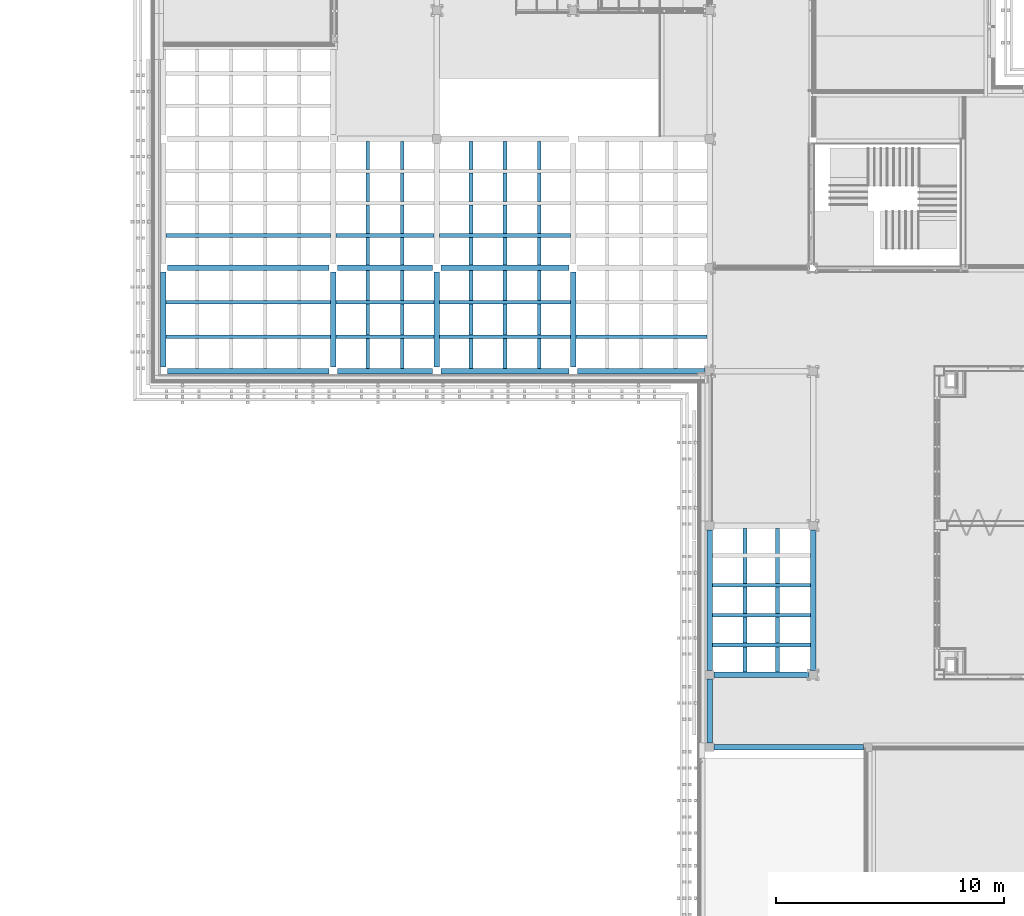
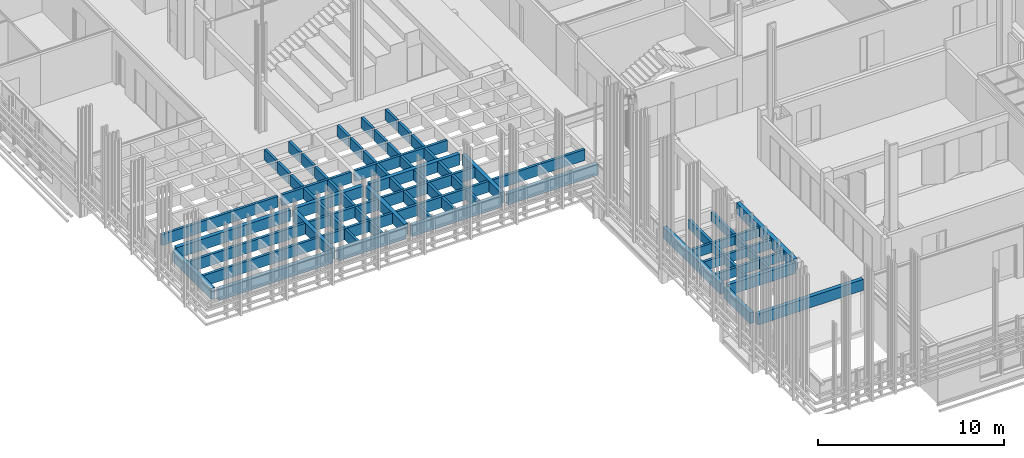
# One storey, part 34 of 139: 36 beams.
"""IFC2X3 building model written with IfcOpenShell, lengths in millimetres."""

from ifc_helpers import new_model, entity, si_unit, converted_unit, derived_unit, money_unit, direction, frame, origin_with_axes, place, context, subcontext, project, spatial, faceted_brep, material, type_object, element, save


model = new_model("IFC2X3")

# Units and contexts
model_context = context("Model", 3, precision=0.01, world=origin_with_axes(), true_north=direction((0.0, 1.0)))
body_context = subcontext(model_context, "Body", "Model", "MODEL_VIEW")
ifc_project = project(units=[si_unit("LENGTHUNIT", "METRE", prefix="MILLI"), si_unit("AREAUNIT", "SQUARE_METRE"), si_unit("VOLUMEUNIT", "CUBIC_METRE"), converted_unit("PLANEANGLEUNIT", "DEGREE", entity("IfcPlaneAngleMeasure", 0.0174532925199), si_unit("PLANEANGLEUNIT", "RADIAN"), dimensions=[0, 0, 0, 0, 0, 0, 0]), money_unit("EUR"), converted_unit("TIMEUNIT", "Year", entity("IfcTimeMeasure", 31556926.0), si_unit("TIMEUNIT", "SECOND"), dimensions=[0, 0, 1, 0, 0, 0, 0]), si_unit("MASSUNIT", "GRAM", prefix="KILO"), si_unit("THERMODYNAMICTEMPERATUREUNIT", "DEGREE_CELSIUS"), si_unit("LUMINOUSINTENSITYUNIT", "LUMEN"), si_unit("ENERGYUNIT", "JOULE", prefix="MEGA"), derived_unit("THERMALCONDUCTANCEUNIT", [(si_unit("POWERUNIT", "WATT"), 1), (si_unit("LENGTHUNIT", "METRE"), -1), (si_unit("THERMODYNAMICTEMPERATUREUNIT", "KELVIN"), -1)]), derived_unit("SPECIFICHEATCAPACITYUNIT", [(si_unit("ENERGYUNIT", "JOULE"), 1), (si_unit("MASSUNIT", "GRAM", prefix="KILO"), -1), (si_unit("THERMODYNAMICTEMPERATUREUNIT", "KELVIN"), -1)]), derived_unit("MASSDENSITYUNIT", [(si_unit("MASSUNIT", "GRAM", prefix="KILO"), 1), (si_unit("VOLUMEUNIT", "CUBIC_METRE"), -1)])], contexts=[model_context])

# Site, building, storey
site_placement = place(None, origin_with_axes())
site = spatial("IfcSite", under=ifc_project, at=site_placement, Name="Kolde pst 67a", CompositionType="ELEMENT")
building_placement = place(site_placement, origin_with_axes())
building = spatial("IfcBuilding", under=site, at=building_placement, Name="Riigigümnaasium", CompositionType="ELEMENT")
storey_placement = place(building_placement, frame((0.0, 0.0, 4600.0), z_axis=(0.0, 0.0, 1.0), x_axis=(1.0, 0.0, 0.0)))
storey = spatial("IfcBuildingStorey", under=building, at=storey_placement, Name="2. korrus", CompositionType="ELEMENT", Elevation=4600.0)

# Beams
ifc_material = material(Name="_KANDETARIND - liimpuit vastavalt EK osale")
beam_type_1 = type_object("IfcBeamType", Name="_KANDETARIND - liimpuit vastavalt EK osale 240 x 720", PredefinedType="BEAM")
beam_1_placement = place(storey_placement, frame((31890.0027795, 28779.9996997, 2959.99999374), z_axis=(0.0, 0.0, 1.0), x_axis=(0.0, -1.0, 0.0)))
element("IfcBeam", 1, at=beam_1_placement, inside=storey, type_object=beam_type_1, material=ifc_material, Name="Tala", ObjectType="BEAM", context=body_context, shape_type="Brep", body=[
    faceted_brep([(120.0, 0.0, 360.0), (120.0, 4169.99645053, 360.0), (-120.0, 4169.99645053, 360.0), (-120.0, 0.0, 360.0), (120.0, 0.0, -360.0), (120.0, 4169.99645053, -360.0), (-120.0, 4169.99645053, -360.0), (-120.0, 0.0, -360.0)], [[[0, 1, 2, 3]], [[4, 5, 1, 0]], [[2, 1, 5, 6]], [[3, 2, 6, 7]], [[4, 0, 3, 7]], [[7, 6, 5, 4]]]),
])
beam_2_placement = place(storey_placement, frame((24230.0027342, 28589.9996998, 2959.99999374), z_axis=(0.0, 0.0, 1.0), x_axis=(-1.0, 0.0, 0.0)))
element("IfcBeam", 2, at=beam_2_placement, inside=storey, type_object=beam_type_1, material=ifc_material, Name="Tala", ObjectType="BEAM", context=body_context, shape_type="Brep", body=[
    faceted_brep([(120.0, 0.0, 360.0), (120.0, 4169.72930563, 360.0), (-120.0, 4169.72930563, 360.0), (-120.0, 0.0, 360.0), (120.0, 0.0, -360.0), (120.0, 4169.72930563, -360.0), (-120.0, 4169.72930563, -360.0), (-120.0, 0.0, -360.0)], [[[0, 1, 2, 3]], [[4, 5, 1, 0]], [[2, 1, 5, 6]], [[3, 2, 6, 7]], [[4, 0, 3, 7]], [[7, 6, 5, 4]]]),
])
for number, where, z_axis, x_axis in (
    (3, (24420.0027342, 24230.2703941, 2959.99999374), (0.0, 0.0, 1.0), (2.13276065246e-10, -1.0, 0.0)),
    (4, (31510.0027795, 28779.9996997, 2960.0), (0.0, 0.0, 1.0), (0.0, 1.0, 0.0)),
):
    element("IfcBeam", number, at=place(storey_placement, frame(where, z_axis=z_axis, x_axis=x_axis)), inside=storey, type_object=beam_type_1, material=ifc_material, Name="Tala", ObjectType="BEAM", context=body_context, shape_type="Brep", body=[
        faceted_brep([(120.0, 0.0, 360.0), (120.0, 7090.00004529, 360.0), (-120.0, 7090.00004529, 360.0), (-120.0, 0.0, 360.0), (120.0, 0.0, -360.0), (120.0, 7090.00004529, -360.0), (-120.0, 7090.00004529, -360.0), (-120.0, 0.0, -360.0)], [[[0, 1, 2, 3]], [[4, 5, 1, 0]], [[2, 1, 5, 6]], [[3, 2, 6, 7]], [[4, 0, 3, 7]], [[7, 6, 5, 4]]]),
    ])
for number, where, z_axis, x_axis in (
    (5, (36248.9770325, 28589.9996998, 2960.0), (0.0, 0.0, 1.0), (-1.0, 0.0, 0.0)),
    (6, (42239.99923, 28589.9996998, 2960.0), (0.0, 0.0, 1.0), (-1.0, 0.0, 0.0)),
):
    element("IfcBeam", number, at=place(storey_placement, frame(where, z_axis=z_axis, x_axis=x_axis)), inside=storey, type_object=beam_type_1, material=ifc_material, Name="Tala", ObjectType="BEAM", context=body_context, shape_type="Brep", body=[
        faceted_brep([(120.0, 0.0, 360.0), (120.0, 4169.72930411, 360.0), (-120.0, 4169.72930411, 360.0), (-120.0, 0.0, 360.0), (120.0, 0.0, -360.0), (120.0, 4169.72930411, -360.0), (-120.0, 4169.72930411, -360.0), (-120.0, 0.0, -360.0)], [[[0, 1, 2, 3]], [[4, 5, 1, 0]], [[2, 1, 5, 6]], [[3, 2, 6, 7]], [[4, 0, 3, 7]], [[7, 6, 5, 4]]]),
    ])
beam_3_placement = place(storey_placement, frame((31700.0027795, 28589.9996997, 2960.0), z_axis=(0.0, 0.0, 1.0), x_axis=(-1.0, 0.0, 0.0)))
element("IfcBeam", 7, at=beam_3_placement, inside=storey, type_object=beam_type_1, material=ifc_material, Name="Tala", ObjectType="BEAM", context=body_context, shape_type="Brep", body=[
    faceted_brep([(120.0, 0.0, 360.0), (120.0, 4169.7293041, 360.0), (-120.0, 4169.7293041, 360.0), (-120.0, 0.0, 360.0), (120.0, 0.0, -360.0), (120.0, 4169.7293041, -360.0), (-120.0, 4169.7293041, -360.0), (-120.0, 0.0, -360.0)], [[[0, 1, 2, 3]], [[4, 5, 1, 0]], [[2, 1, 5, 6]], [[3, 2, 6, 7]], [[4, 0, 3, 7]], [[7, 6, 5, 4]]]),
])
beam_4_placement = place(storey_placement, frame((31890.0027795, 24230.2703956, 2960.0), z_axis=(0.0, 0.0, 1.0), x_axis=(0.0, -1.0, 0.0)))
element("IfcBeam", 8, at=beam_4_placement, inside=storey, type_object=beam_type_1, material=ifc_material, Name="Tala", ObjectType="BEAM", context=body_context, shape_type="Brep", body=[
    faceted_brep([(120.0, 0.0, 360.0), (120.0, 4168.974253, 360.0), (-120.0, 4168.974253, 360.0), (-120.0, 0.0, 360.0), (120.0, 0.0, -360.0), (120.0, 4168.974253, -360.0), (-120.0, 4168.974253, -360.0), (-120.0, 0.0, -360.0)], [[[0, 1, 2, 3]], [[4, 5, 1, 0]], [[2, 1, 5, 6]], [[3, 2, 6, 7]], [[4, 0, 3, 7]], [[7, 6, 5, 4]]]),
])
beam_5_placement = place(storey_placement, frame((36438.9770325, 24230.2703956, 2960.0), z_axis=(0.0, 0.0, 1.0), x_axis=(0.0, -1.0, 0.0)))
element("IfcBeam", 9, at=beam_5_placement, inside=storey, type_object=beam_type_1, material=ifc_material, Name="Tala", ObjectType="BEAM", context=body_context, shape_type="Brep", body=[
    faceted_brep([(120.0, 0.0, 360.0), (120.0, 5611.02219754, 360.0), (-120.0, 5611.02219754, 360.0), (-120.0, 0.0, 360.0), (120.0, 0.0, -360.0), (120.0, 5611.02219754, -360.0), (-120.0, 5611.02219754, -360.0), (-120.0, 0.0, -360.0)], [[[0, 1, 2, 3]], [[4, 5, 1, 0]], [[2, 1, 5, 6]], [[3, 2, 6, 7]], [[4, 0, 3, 7]], [[7, 6, 5, 4]]]),
])
beam_6_placement = place(storey_placement, frame((42429.99923, 24230.2703949, 2960.0), z_axis=(0.0, 0.0, 1.0), x_axis=(-4.88166761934e-05, -0.999999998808, 0.0)))
element("IfcBeam", 10, at=beam_6_placement, inside=storey, type_object=beam_type_1, material=ifc_material, Name="Tala", ObjectType="BEAM", context=body_context, shape_type="Brep", body=[
    faceted_brep([(120.0, 0.0, 360.0), (120.0, 5609.98623737, 360.0), (-120.0, 5609.98623737, 360.0), (-120.0, 0.0, 360.0), (120.0, 0.0, -360.0), (120.0, 5609.98623737, -360.0), (-120.0, 5609.98623737, -360.0), (-120.0, 0.0, -360.0)], [[[0, 1, 2, 3]], [[4, 5, 1, 0]], [[2, 1, 5, 6]], [[3, 2, 6, 7]], [[4, 0, 3, 7]], [[7, 6, 5, 4]]]),
])
beam_7_placement = place(storey_placement, frame((36439.99923, 28779.9996997, 2960.0), z_axis=(0.0, 0.0, 1.0), x_axis=(0.0, -1.0, 0.0)))
element("IfcBeam", 11, at=beam_7_placement, inside=storey, type_object=beam_type_1, material=ifc_material, Name="Tala", ObjectType="BEAM", context=body_context, shape_type="Brep", body=[
    faceted_brep([(120.0, 0.0, 360.0), (120.0, 5610.0, 360.0), (-120.0, 5610.0, 360.0), (-120.0, 0.0, 360.0), (120.0, 0.0, -360.0), (120.0, 5610.0, -360.0), (-120.0, 5610.0, -360.0), (-120.0, 0.0, -360.0)], [[[0, 1, 2, 3]], [[4, 5, 1, 0]], [[2, 1, 5, 6]], [[3, 2, 6, 7]], [[4, 0, 3, 7]], [[7, 6, 5, 4]]]),
])
beam_8_placement = place(storey_placement, frame((52779.9941032, 17259.9999742, 2960.0), z_axis=(0.0, 0.0, 1.0), x_axis=(-1.0, -3.07976113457e-09, 0.0)))
element("IfcBeam", 12, at=beam_8_placement, inside=storey, type_object=beam_type_1, material=ifc_material, Name="Tala", ObjectType="BEAM", context=body_context, shape_type="Brep", body=[
    faceted_brep([(120.0, 0.0, 360.0), (120.0, 6170.03803351, 360.0), (-120.0, 6170.03803351, 360.0), (-120.0, 0.0, 360.0), (120.0, 0.0, -360.0), (120.0, 6170.03803351, -360.0), (-120.0, 6170.03803351, -360.0), (-120.0, 0.0, -360.0)], [[[0, 1, 2, 3]], [[4, 5, 1, 0]], [[2, 1, 5, 6]], [[3, 2, 6, 7]], [[4, 0, 3, 7]], [[7, 6, 5, 4]]]),
])
beam_9_placement = place(storey_placement, frame((48419.9805812, 7709.99999911, 2960.0), z_axis=(0.0, 0.0, 1.0), x_axis=(0.0, -1.0, 0.0)))
element("IfcBeam", 13, at=beam_9_placement, inside=storey, type_object=beam_type_1, material=ifc_material, Name="Tala", ObjectType="BEAM", context=body_context, shape_type="Brep", body=[
    faceted_brep([(120.0, 0.0, 360.0), (120.0, 6569.99479131, 360.0), (-120.0, 6569.99479131, 360.0), (-120.0, 0.0, 360.0), (120.0, 0.0, -360.0), (120.0, 6569.99479131, -360.0), (-120.0, 6569.99479131, -360.0), (-120.0, 0.0, -360.0)], [[[0, 1, 2, 3]], [[4, 5, 1, 0]], [[2, 1, 5, 6]], [[3, 2, 6, 7]], [[4, 0, 3, 7]], [[7, 6, 5, 4]]]),
])
beam_10_placement = place(storey_placement, frame((52589.9941836, 10899.9619736, 2960.0), z_axis=(0.0, 0.0, 1.0), x_axis=(0.0, 1.0, 0.0)))
element("IfcBeam", 14, at=beam_10_placement, inside=storey, type_object=beam_type_1, material=ifc_material, Name="Tala", ObjectType="BEAM", context=body_context, shape_type="Brep", body=[
    faceted_brep([(120.0, 0.0, 360.0), (120.0, 4170.00868457, 360.0), (-120.0, 4170.00868457, 360.0), (-120.0, 0.0, 360.0), (120.0, 0.0, -360.0), (120.0, 4170.00868457, -360.0), (-120.0, 4170.00868457, -360.0), (-120.0, 0.0, -360.0)], [[[0, 1, 2, 3]], [[4, 5, 1, 0]], [[2, 1, 5, 6]], [[3, 2, 6, 7]], [[4, 0, 3, 7]], [[7, 6, 5, 4]]]),
])
beam_11_placement = place(storey_placement, frame((48229.9854113, 17259.9999742, 2960.0), z_axis=(0.0, 0.0, 1.0), x_axis=(-1.0, -3.07976113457e-09, 0.0)))
element("IfcBeam", 15, at=beam_11_placement, inside=storey, type_object=beam_type_1, material=ifc_material, Name="Tala", ObjectType="BEAM", context=body_context, shape_type="Brep", body=[
    faceted_brep([(120.0, 0.0, 360.0), (120.0, 6170.03803351, 360.0), (-120.0, 6170.03803351, 360.0), (-120.0, 0.0, 360.0), (120.0, 0.0, -360.0), (120.0, 6170.03803351, -360.0), (-120.0, 6170.03803351, -360.0), (-120.0, 0.0, -360.0)], [[[0, 1, 2, 3]], [[4, 5, 1, 0]], [[2, 1, 5, 6]], [[3, 2, 6, 7]], [[4, 0, 3, 7]], [[7, 6, 5, 4]]]),
])
beam_12_placement = place(storey_placement, frame((48229.9854979, 10709.9619736, 2960.0), z_axis=(0.0, 0.0, 1.0), x_axis=(-1.0, 0.0, 0.0)))
element("IfcBeam", 16, at=beam_12_placement, inside=storey, type_object=beam_type_1, material=ifc_material, Name="Tala", ObjectType="BEAM", context=body_context, shape_type="Brep", body=[
    faceted_brep([(120.0, 0.0, 360.0), (120.0, 2809.96167993, 360.0), (-120.0, 2809.96167993, 360.0), (-120.0, 0.0, 360.0), (120.0, 0.0, -360.0), (120.0, 2809.96167993, -360.0), (-120.0, 2809.96167993, -360.0), (-120.0, 0.0, -360.0)], [[[0, 1, 2, 3]], [[4, 5, 1, 0]], [[2, 1, 5, 6]], [[3, 2, 6, 7]], [[4, 0, 3, 7]], [[7, 6, 5, 4]]]),
])
beam_type_2 = type_object("IfcBeamType", Name="_KANDETARIND - liimpuit vastavalt EK osale 160 x 600", PredefinedType="BEAM")
for number, where, z_axis, x_axis in (
    (17, (52659.994119, 12209.5355863, 2900.0), (0.0, 0.0, 1.0), (0.0, 1.0, 0.0)),
    (18, (52659.994115, 13519.5355863, 2900.0), (0.0, 0.0, 1.0), (-3.07976132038e-09, 1.0, 0.0)),
    (19, (52659.9941109, 14829.5355863, 2900.0), (0.0, 0.0, 1.0), (-3.07976132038e-09, 1.0, 0.0)),
):
    element("IfcBeam", number, at=place(storey_placement, frame(where, z_axis=z_axis, x_axis=x_axis)), inside=storey, type_object=beam_type_2, material=ifc_material, Name="Tala", ObjectType="BEAM", context=body_context, shape_type="Brep", body=[
        faceted_brep([(80.0, 0.0, 300.0), (80.0, 4310.00869219, 300.0), (-80.0, 4310.00869219, 300.0), (-80.0, 0.0, 300.0), (80.0, 0.0, -300.0), (80.0, 4310.00869219, -300.0), (-80.0, 4310.00869219, -300.0), (-80.0, 0.0, -300.0)], [[[0, 1, 2, 3]], [[4, 5, 1, 0]], [[2, 1, 5, 6]], [[3, 2, 6, 7]], [[4, 0, 3, 7]], [[7, 6, 5, 4]]]),
    ])
for number, where, z_axis, x_axis in (
    (20, (51217.5090392, 11019.9619736, 2900.0), (0.0, 0.0, 1.0), (1.0, 0.0, 0.0)),
    (21, (49787.5090392, 11019.9619736, 2900.0), (0.0, 0.0, 1.0), (1.0, 0.0, 0.0)),
):
    element("IfcBeam", number, at=place(storey_placement, frame(where, z_axis=z_axis, x_axis=x_axis)), inside=storey, type_object=beam_type_2, material=ifc_material, Name="Tala", ObjectType="BEAM", context=body_context, shape_type="Brep", body=[
        faceted_brep([(80.0, 0.0, 300.0), (80.0, 6310.03800062, 300.0), (-80.0, 6310.03800062, 300.0), (-80.0, 0.0, 300.0), (80.0, 0.0, -300.0), (80.0, 6310.03800062, -300.0), (-80.0, 6310.03800062, -300.0), (-80.0, 0.0, -300.0)], [[[0, 1, 2, 3]], [[4, 5, 1, 0]], [[2, 1, 5, 6]], [[3, 2, 6, 7]], [[4, 0, 3, 7]], [[7, 6, 5, 4]]]),
    ])
beam_type_3 = type_object("IfcBeamType", Name="_KANDETARIND - liimpuit vastavalt EK osale 160 x 720", PredefinedType="BEAM")
for number, where, z_axis, x_axis in (
    (22, (31579.955711, 27264.573681, 2960.0), (0.0, 0.0, 1.0), (0.0, 1.0, 0.0)),
    (23, (31579.955711, 25744.573681, 2960.0), (0.0, 0.0, 1.0), (0.0, 1.0, 0.0)),
    (24, (31579.955711, 30194.9857523, 2960.0), (0.0, 0.0, 1.0), (0.0, 1.0, 0.0)),
):
    element("IfcBeam", number, at=place(storey_placement, frame(where, z_axis=z_axis, x_axis=x_axis)), inside=storey, type_object=beam_type_3, material=ifc_material, Name="Tala", ObjectType="BEAM", context=body_context, shape_type="Brep", body=[
        faceted_brep([(80.0, 0.0, 360.0), (80.0, 7229.95297686, 360.0), (-80.0, 7229.95297686, 360.0), (-80.0, 0.0, 360.0), (80.0, 0.0, -360.0), (80.0, 7229.95297686, -360.0), (-80.0, 7229.95297686, -360.0), (-80.0, 0.0, -360.0)], [[[0, 1, 2, 3]], [[4, 5, 1, 0]], [[2, 1, 5, 6]], [[3, 2, 6, 7]], [[4, 0, 3, 7]], [[7, 6, 5, 4]]]),
    ])
beam_13_placement = place(storey_placement, frame((36128.9770325, 27264.573681, 2960.0), z_axis=(0.0, 0.0, 1.0), x_axis=(0.0, 1.0, 0.0)))
element("IfcBeam", 25, at=beam_13_placement, inside=storey, type_object=beam_type_3, material=ifc_material, Name="Tala", ObjectType="BEAM", context=body_context, shape_type="Brep", body=[
    faceted_brep([(80.0, 0.0, 360.0), (80.0, 4308.98122083, 360.0), (-80.0, 4308.98122083, 360.0), (-80.0, 0.0, 360.0), (80.0, 0.0, -360.0), (80.0, 4308.98122083, -360.0), (-80.0, 4308.98122083, -360.0), (-80.0, 0.0, -360.0)], [[[0, 1, 2, 3]], [[4, 5, 1, 0]], [[2, 1, 5, 6]], [[3, 2, 6, 7]], [[4, 0, 3, 7]], [[7, 6, 5, 4]]]),
])
beam_14_placement = place(storey_placement, frame((36129.9521616, 25744.573681, 2960.0), z_axis=(0.0, 0.0, 1.0), x_axis=(0.0, 1.0, 0.0)))
element("IfcBeam", 26, at=beam_14_placement, inside=storey, type_object=beam_type_3, material=ifc_material, Name="Tala", ObjectType="BEAM", context=body_context, shape_type="Brep", body=[
    faceted_brep([(80.0, 0.0, 360.0), (80.0, 4309.95634998, 360.0), (-80.0, 4309.95634998, 360.0), (-80.0, 0.0, 360.0), (80.0, 0.0, -360.0), (80.0, 4309.95634998, -360.0), (-80.0, 4309.95634998, -360.0), (-80.0, 0.0, -360.0)], [[[0, 1, 2, 3]], [[4, 5, 1, 0]], [[2, 1, 5, 6]], [[3, 2, 6, 7]], [[4, 0, 3, 7]], [[7, 6, 5, 4]]]),
])
beam_15_placement = place(storey_placement, frame((36130.0521616, 30194.9857523, 2960.0), z_axis=(0.0, 0.0, 1.0), x_axis=(0.0, 1.0, 0.0)))
element("IfcBeam", 27, at=beam_15_placement, inside=storey, type_object=beam_type_3, material=ifc_material, Name="Tala", ObjectType="BEAM", context=body_context, shape_type="Brep", body=[
    faceted_brep([(80.0, 0.0, 360.0), (80.0, 4310.05634998, 360.0), (-80.0, 4310.05634998, 360.0), (-80.0, 0.0, 360.0), (80.0, 0.0, -360.0), (80.0, 4310.05634998, -360.0), (-80.0, 4310.05634998, -360.0), (-80.0, 0.0, -360.0)], [[[0, 1, 2, 3]], [[4, 5, 1, 0]], [[2, 1, 5, 6]], [[3, 2, 6, 7]], [[4, 0, 3, 7]], [[7, 6, 5, 4]]]),
])
beam_16_placement = place(storey_placement, frame((42118.9770324, 27264.573681, 2960.0), z_axis=(0.0, 0.0, 1.0), x_axis=(0.0, 1.0, 0.0)))
element("IfcBeam", 28, at=beam_16_placement, inside=storey, type_object=beam_type_3, material=ifc_material, Name="Tala", ObjectType="BEAM", context=body_context, shape_type="Brep", body=[
    faceted_brep([(80.0, 0.0, 360.0), (80.0, 5749.02487088, 360.0), (-80.0, 5749.02487088, 360.0), (-80.0, 0.0, 360.0), (80.0, 0.0, -360.0), (80.0, 5749.02487088, -360.0), (-80.0, 5749.02487088, -360.0), (-80.0, 0.0, -360.0)], [[[0, 1, 2, 3]], [[4, 5, 1, 0]], [[2, 1, 5, 6]], [[3, 2, 6, 7]], [[4, 0, 3, 7]], [[7, 6, 5, 4]]]),
])
for number, where, z_axis, x_axis in (
    (29, (42119.9521616, 25744.573681, 2960.0), (0.0, 0.0, 1.0), (0.0, 1.0, 0.0)),
    (30, (42120.0521616, 30194.9857523, 2960.0), (0.0, 0.0, 1.0), (0.0, 1.0, 0.0)),
    (31, (48109.9521616, 25744.573681, 2960.0), (0.0, 0.0, 1.0), (0.0, 1.0, 0.0)),
):
    element("IfcBeam", number, at=place(storey_placement, frame(where, z_axis=z_axis, x_axis=x_axis)), inside=storey, type_object=beam_type_3, material=ifc_material, Name="Tala", ObjectType="BEAM", context=body_context, shape_type="Brep", body=[
        faceted_brep([(80.0, 0.0, 360.0), (80.0, 5750.00000003, 360.0), (-80.0, 5750.00000003, 360.0), (-80.0, 0.0, 360.0), (80.0, 0.0, -360.0), (80.0, 5750.00000003, -360.0), (-80.0, 5750.00000003, -360.0), (-80.0, 0.0, -360.0)], [[[0, 1, 2, 3]], [[4, 5, 1, 0]], [[2, 1, 5, 6]], [[3, 2, 6, 7]], [[4, 0, 3, 7]], [[7, 6, 5, 4]]]),
    ])
beam_17_placement = place(storey_placement, frame((33216.6211946, 34319.9999748, 2960.0), z_axis=(0.0, 0.0, 1.0), x_axis=(-1.0, 0.0, 0.0)))
element("IfcBeam", 32, at=beam_17_placement, inside=storey, type_object=beam_type_3, material=ifc_material, Name="Tala", ObjectType="BEAM", context=body_context, shape_type="Brep", body=[
    faceted_brep([(-80.0, 8655.42629374, -360.0), (-80.0, 8655.42629374, 360.0), (-80.0, 9969.9999729, 360.0), (-80.0, 9969.9999729, -360.0), (80.0, 8655.42629374, 360.0), (80.0, 8655.42629374, -360.0), (80.0, 9969.9999729, 360.0), (80.0, 9969.9999729, -360.0)], [[[0, 1, 2, 3]], [[4, 1, 0, 5]], [[1, 4, 6, 2]], [[7, 3, 2, 6]], [[5, 0, 3, 7]], [[4, 5, 7, 6]]]),
    faceted_brep([(80.0, 8495.42629374, 360.0), (-80.0, 8495.42629374, 360.0), (-80.0, 7135.42629374, 360.0), (80.0, 7135.42629374, 360.0), (-80.0, 8495.42629374, -360.0), (80.0, 8495.42629374, -360.0), (-80.0, 7135.42629374, -360.0), (80.0, 7135.42629374, -360.0)], [[[0, 1, 2, 3]], [[4, 1, 0, 5]], [[1, 4, 6, 2]], [[7, 3, 2, 6]], [[5, 0, 3, 7]], [[4, 5, 7, 6]]]),
    faceted_brep([(80.0, 6975.42629374, 360.0), (-80.0, 6975.42629374, 360.0), (-80.0, 5660.00027504, 359.999993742), (80.0, 5660.00027504, 359.999993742), (-80.0, 6975.42629374, -360.0), (80.0, 6975.42629374, -360.0), (-80.0, 5660.00027504, -360.000006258), (80.0, 5660.00027504, -360.000006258)], [[[0, 1, 2, 3]], [[4, 1, 0, 5]], [[1, 4, 6, 2]], [[7, 3, 2, 6]], [[5, 0, 3, 7]], [[4, 5, 7, 6]]]),
    faceted_brep([(80.0, 5420.00027504, 359.999993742), (-80.0, 5420.00027504, 359.999993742), (-80.0, 4205.01422248, 360.0), (80.0, 4205.01422248, 360.0), (-80.0, 5420.00027504, -360.000006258), (80.0, 5420.00027504, -360.000006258), (-80.0, 4205.01422248, -360.0), (80.0, 4205.01422248, -360.0)], [[[0, 1, 2, 3]], [[4, 1, 0, 5]], [[1, 4, 6, 2]], [[7, 3, 2, 6]], [[5, 0, 3, 7]], [[4, 5, 7, 6]]]),
    faceted_brep([(80.0, 4045.01422248, 360.0), (-80.0, 4045.01422248, 360.0), (-80.0, 2790.01422248, 360.0), (80.0, 2790.01422248, 360.0), (-80.0, 4045.01422248, -360.0), (80.0, 4045.01422248, -360.0), (-80.0, 2790.01422248, -360.0), (80.0, 2790.01422248, -360.0)], [[[0, 1, 2, 3]], [[4, 1, 0, 5]], [[1, 4, 6, 2]], [[7, 3, 2, 6]], [[5, 0, 3, 7]], [[4, 5, 7, 6]]]),
    faceted_brep([(80.0, 2630.01422248, 360.0), (-80.0, 2630.01422248, 360.0), (-80.0, 1375.61379117, 360.0), (80.0, 1375.61379117, 360.0), (-80.0, 2630.01422248, -360.0), (80.0, 2630.01422248, -360.0), (-80.0, 1375.61379117, -360.0), (80.0, 1375.61379117, -360.0)], [[[0, 1, 2, 3]], [[4, 1, 0, 5]], [[1, 4, 6, 2]], [[7, 3, 2, 6]], [[5, 0, 3, 7]], [[4, 5, 7, 6]]]),
    faceted_brep([(80.0, 1215.61379117, 360.0), (-80.0, 1215.61379117, 360.0), (-80.0, 0.0, 360.0), (80.0, 0.0, 360.0), (-80.0, 1215.61379117, -360.0), (80.0, 1215.61379117, -360.0), (-80.0, 0.0, -360.0), (80.0, 0.0, -360.0)], [[[0, 1, 2, 3]], [[4, 1, 0, 5]], [[1, 4, 6, 2]], [[6, 7, 3, 2]], [[5, 0, 3, 7]], [[4, 5, 7, 6]]]),
])
beam_18_placement = place(storey_placement, frame((34733.2866781, 34319.999949, 2960.0), z_axis=(0.0, 0.0, 1.0), x_axis=(-1.0, 0.0, 0.0)))
element("IfcBeam", 33, at=beam_18_placement, inside=storey, type_object=beam_type_3, material=ifc_material, Name="Tala", ObjectType="BEAM", context=body_context, shape_type="Brep", body=[
    faceted_brep([(-80.0, 8655.42626795, -360.0), (-80.0, 8655.42626795, 360.0), (-80.0, 9969.9999729, 360.0), (-80.0, 9969.9999729, -360.0), (80.0, 8655.42626795, 360.0), (80.0, 8655.42626795, -360.0), (80.0, 9969.9999729, 360.0), (80.0, 9969.9999729, -360.0)], [[[0, 1, 2, 3]], [[4, 1, 0, 5]], [[1, 4, 6, 2]], [[7, 3, 2, 6]], [[5, 0, 3, 7]], [[4, 5, 7, 6]]]),
    faceted_brep([(80.0, 8495.42626795, 360.0), (-80.0, 8495.42626795, 360.0), (-80.0, 7135.42626795, 360.0), (80.0, 7135.42626795, 360.0), (-80.0, 8495.42626795, -360.0), (80.0, 8495.42626795, -360.0), (-80.0, 7135.42626795, -360.0), (80.0, 7135.42626795, -360.0)], [[[0, 1, 2, 3]], [[4, 1, 0, 5]], [[1, 4, 6, 2]], [[7, 3, 2, 6]], [[5, 0, 3, 7]], [[4, 5, 7, 6]]]),
    faceted_brep([(80.0, 6975.42626795, 360.0), (-80.0, 6975.42626795, 360.0), (-80.0, 5660.00024925, 359.999993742), (80.0, 5660.00024925, 359.999993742), (-80.0, 6975.42626795, -360.0), (80.0, 6975.42626795, -360.0), (-80.0, 5660.00024925, -360.000006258), (80.0, 5660.00024925, -360.000006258)], [[[0, 1, 2, 3]], [[4, 1, 0, 5]], [[1, 4, 6, 2]], [[7, 3, 2, 6]], [[5, 0, 3, 7]], [[4, 5, 7, 6]]]),
    faceted_brep([(80.0, 5420.00024925, 359.999993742), (-80.0, 5420.00024925, 359.999993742), (-80.0, 4205.01419669, 360.0), (80.0, 4205.01419669, 360.0), (-80.0, 5420.00024925, -360.000006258), (80.0, 5420.00024925, -360.000006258), (-80.0, 4205.01419669, -360.0), (80.0, 4205.01419669, -360.0)], [[[0, 1, 2, 3]], [[4, 1, 0, 5]], [[1, 4, 6, 2]], [[7, 3, 2, 6]], [[5, 0, 3, 7]], [[4, 5, 7, 6]]]),
    faceted_brep([(80.0, 4045.01419669, 360.0), (-80.0, 4045.01419669, 360.0), (-80.0, 2790.01419669, 360.0), (80.0, 2790.01419669, 360.0), (-80.0, 4045.01419669, -360.0), (80.0, 4045.01419669, -360.0), (-80.0, 2790.01419669, -360.0), (80.0, 2790.01419669, -360.0)], [[[0, 1, 2, 3]], [[4, 1, 0, 5]], [[1, 4, 6, 2]], [[7, 3, 2, 6]], [[5, 0, 3, 7]], [[4, 5, 7, 6]]]),
    faceted_brep([(80.0, 2630.01419669, 360.0), (-80.0, 2630.01419669, 360.0), (-80.0, 1375.61376537, 360.0), (80.0, 1375.61376537, 360.0), (-80.0, 2630.01419669, -360.0), (80.0, 2630.01419669, -360.0), (-80.0, 1375.61376537, -360.0), (80.0, 1375.61376537, -360.0)], [[[0, 1, 2, 3]], [[4, 1, 0, 5]], [[1, 4, 6, 2]], [[7, 3, 2, 6]], [[5, 0, 3, 7]], [[4, 5, 7, 6]]]),
    faceted_brep([(80.0, 1215.61376537, 360.0), (-80.0, 1215.61376537, 360.0), (-80.0, 0.0, 360.0), (80.0, 0.0, 360.0), (-80.0, 1215.61376537, -360.0), (80.0, 1215.61376537, -360.0), (-80.0, 0.0, -360.0), (80.0, 0.0, -360.0)], [[[0, 1, 2, 3]], [[4, 1, 0, 5]], [[1, 4, 6, 2]], [[6, 7, 3, 2]], [[5, 0, 3, 7]], [[4, 5, 7, 6]]]),
])
beam_19_placement = place(storey_placement, frame((37747.4521616, 34319.9999748, 2960.0), z_axis=(0.0, 0.0, 1.0), x_axis=(-1.0, 0.0, 0.0)))
element("IfcBeam", 34, at=beam_19_placement, inside=storey, type_object=beam_type_3, material=ifc_material, Name="Tala", ObjectType="BEAM", context=body_context, shape_type="Brep", body=[
    faceted_brep([(-80.0, 1375.61379117, -360.0), (-80.0, 1375.61379117, 360.0), (-80.0, 2630.01422248, 360.0), (-80.0, 2630.01422248, -360.0), (80.0, 1375.61379117, 360.0), (80.0, 1375.61379117, -360.0), (80.0, 2630.01422248, 360.0), (80.0, 2630.01422248, -360.0)], [[[0, 1, 2, 3]], [[4, 1, 0, 5]], [[1, 4, 6, 2]], [[7, 3, 2, 6]], [[5, 0, 3, 7]], [[4, 5, 7, 6]]]),
    faceted_brep([(80.0, 1215.61379117, 360.0), (-80.0, 1215.61379117, 360.0), (-80.0, 0.0, 360.0), (80.0, 0.0, 360.0), (-80.0, 1215.61379117, -360.0), (80.0, 1215.61379117, -360.0), (-80.0, 0.0, -360.0), (80.0, 0.0, -360.0)], [[[0, 1, 2, 3]], [[4, 1, 0, 5]], [[1, 4, 6, 2]], [[2, 6, 7, 3]], [[5, 0, 3, 7]], [[4, 5, 7, 6]]]),
    faceted_brep([(-80.0, 2790.01422248, -360.0), (-80.0, 2790.01422248, 360.0), (-80.0, 4045.01422248, 360.0), (-80.0, 4045.01422248, -360.0), (80.0, 2790.01422248, 360.0), (80.0, 2790.01422248, -360.0), (80.0, 4045.01422248, 360.0), (80.0, 4045.01422248, -360.0)], [[[0, 1, 2, 3]], [[4, 1, 0, 5]], [[1, 4, 6, 2]], [[7, 3, 2, 6]], [[5, 0, 3, 7]], [[4, 5, 7, 6]]]),
    faceted_brep([(-80.0, 4205.01422248, -360.0), (-80.0, 4205.01422248, 360.0), (-80.0, 5420.00027504, 360.0), (-80.0, 5420.00027504, -360.0), (80.0, 4205.01422248, 360.0), (80.0, 4205.01422248, -360.0), (80.0, 5420.00027504, 360.0), (80.0, 5420.00027504, -360.0)], [[[0, 1, 2, 3]], [[4, 1, 0, 5]], [[1, 4, 6, 2]], [[7, 3, 2, 6]], [[5, 0, 3, 7]], [[4, 5, 7, 6]]]),
    faceted_brep([(-80.0, 5660.00027504, -360.0), (-80.0, 5660.00027504, 360.0), (-80.0, 6975.42629374, 360.0), (-80.0, 6975.42629374, -360.0), (80.0, 5660.00027504, 360.0), (80.0, 5660.00027504, -360.0), (80.0, 6975.42629374, 360.0), (80.0, 6975.42629374, -360.0)], [[[0, 1, 2, 3]], [[4, 1, 0, 5]], [[1, 4, 6, 2]], [[7, 3, 2, 6]], [[5, 0, 3, 7]], [[4, 5, 7, 6]]]),
    faceted_brep([(-80.0, 7135.42629374, -360.0), (-80.0, 7135.42629374, 360.0), (-80.0, 8495.42629374, 360.0), (-80.0, 8495.42629374, -360.0), (80.0, 7135.42629374, 360.0), (80.0, 7135.42629374, -360.0), (80.0, 8495.42629374, 360.0), (80.0, 8495.42629374, -360.0)], [[[0, 1, 2, 3]], [[4, 1, 0, 5]], [[1, 4, 6, 2]], [[7, 3, 2, 6]], [[5, 0, 3, 7]], [[4, 5, 7, 6]]]),
    faceted_brep([(-80.0, 8655.42629374, -360.0), (-80.0, 8655.42629374, 360.0), (-80.0, 9969.9999729, 360.0), (-80.0, 9969.9999729, -360.0), (80.0, 8655.42629374, 360.0), (80.0, 8655.42629374, -360.0), (80.0, 9969.9999729, 360.0), (80.0, 9969.9999729, -360.0)], [[[0, 1, 2, 3]], [[4, 1, 0, 5]], [[1, 4, 6, 2]], [[3, 2, 6, 7]], [[5, 0, 3, 7]], [[4, 5, 7, 6]]]),
])
beam_20_placement = place(storey_placement, frame((39244.9521616, 34319.999949, 2960.0), z_axis=(0.0, 0.0, 1.0), x_axis=(-1.0, 0.0, 0.0)))
element("IfcBeam", 35, at=beam_20_placement, inside=storey, type_object=beam_type_3, material=ifc_material, Name="Tala", ObjectType="BEAM", context=body_context, shape_type="Brep", body=[
    faceted_brep([(-80.0, 1375.61376537, -360.0), (-80.0, 1375.61376537, 360.0), (-80.0, 2630.01419669, 360.0), (-80.0, 2630.01419669, -360.0), (80.0, 1375.61376537, 360.0), (80.0, 1375.61376537, -360.0), (80.0, 2630.01419669, 360.0), (80.0, 2630.01419669, -360.0)], [[[0, 1, 2, 3]], [[4, 1, 0, 5]], [[1, 4, 6, 2]], [[7, 3, 2, 6]], [[5, 0, 3, 7]], [[4, 5, 7, 6]]]),
    faceted_brep([(80.0, 1215.61376537, 360.0), (-80.0, 1215.61376537, 360.0), (-80.0, 0.0, 360.0), (80.0, 0.0, 360.0), (-80.0, 1215.61376537, -360.0), (80.0, 1215.61376537, -360.0), (-80.0, 0.0, -360.0), (80.0, 0.0, -360.0)], [[[0, 1, 2, 3]], [[4, 1, 0, 5]], [[1, 4, 6, 2]], [[2, 6, 7, 3]], [[5, 0, 3, 7]], [[4, 5, 7, 6]]]),
    faceted_brep([(-80.0, 2790.01419669, -360.0), (-80.0, 2790.01419669, 360.0), (-80.0, 4045.01419669, 360.0), (-80.0, 4045.01419669, -360.0), (80.0, 2790.01419669, 360.0), (80.0, 2790.01419669, -360.0), (80.0, 4045.01419669, 360.0), (80.0, 4045.01419669, -360.0)], [[[0, 1, 2, 3]], [[4, 1, 0, 5]], [[1, 4, 6, 2]], [[7, 3, 2, 6]], [[5, 0, 3, 7]], [[4, 5, 7, 6]]]),
    faceted_brep([(-80.0, 4205.01419669, -360.0), (-80.0, 4205.01419669, 360.0), (-80.0, 5420.00024925, 360.0), (-80.0, 5420.00024925, -360.0), (80.0, 4205.01419669, 360.0), (80.0, 4205.01419669, -360.0), (80.0, 5420.00024925, 360.0), (80.0, 5420.00024925, -360.0)], [[[0, 1, 2, 3]], [[4, 1, 0, 5]], [[1, 4, 6, 2]], [[7, 3, 2, 6]], [[5, 0, 3, 7]], [[4, 5, 7, 6]]]),
    faceted_brep([(-80.0, 5660.00024925, -360.0), (-80.0, 5660.00024925, 360.0), (-80.0, 6975.42626795, 360.0), (-80.0, 6975.42626795, -360.0), (80.0, 5660.00024925, 360.0), (80.0, 5660.00024925, -360.0), (80.0, 6975.42626795, 360.0), (80.0, 6975.42626795, -360.0)], [[[0, 1, 2, 3]], [[4, 1, 0, 5]], [[1, 4, 6, 2]], [[7, 3, 2, 6]], [[5, 0, 3, 7]], [[4, 5, 7, 6]]]),
    faceted_brep([(-80.0, 7135.42626795, -360.0), (-80.0, 7135.42626795, 360.0), (-80.0, 8495.42626795, 360.0), (-80.0, 8495.42626795, -360.0), (80.0, 7135.42626795, 360.0), (80.0, 7135.42626795, -360.0), (80.0, 8495.42626795, 360.0), (80.0, 8495.42626795, -360.0)], [[[0, 1, 2, 3]], [[4, 1, 0, 5]], [[1, 4, 6, 2]], [[7, 3, 2, 6]], [[5, 0, 3, 7]], [[4, 5, 7, 6]]]),
    faceted_brep([(-80.0, 8655.42626795, -360.0), (-80.0, 8655.42626795, 360.0), (-80.0, 9969.9999729, 360.0), (-80.0, 9969.9999729, -360.0), (80.0, 8655.42626795, 360.0), (80.0, 8655.42626795, -360.0), (80.0, 9969.9999729, 360.0), (80.0, 9969.9999729, -360.0)], [[[0, 1, 2, 3]], [[4, 1, 0, 5]], [[1, 4, 6, 2]], [[3, 2, 6, 7]], [[5, 0, 3, 7]], [[4, 5, 7, 6]]]),
])
beam_21_placement = place(storey_placement, frame((40742.4521616, 34319.999949, 2960.0), z_axis=(0.0, 0.0, 1.0), x_axis=(-1.0, 0.0, 0.0)))
element("IfcBeam", 36, at=beam_21_placement, inside=storey, type_object=beam_type_3, material=ifc_material, Name="Tala", ObjectType="BEAM", context=body_context, shape_type="Brep", body=[
    faceted_brep([(-80.0, 1375.61376537, -360.0), (-80.0, 1375.61376537, 360.0), (-80.0, 2630.01419669, 360.0), (-80.0, 2630.01419669, -360.0), (80.0, 1375.61376537, 360.0), (80.0, 1375.61376537, -360.0), (80.0, 2630.01419669, 360.0), (80.0, 2630.01419669, -360.0)], [[[0, 1, 2, 3]], [[4, 1, 0, 5]], [[1, 4, 6, 2]], [[7, 3, 2, 6]], [[5, 0, 3, 7]], [[4, 5, 7, 6]]]),
    faceted_brep([(80.0, 1215.61376537, 360.0), (-80.0, 1215.61376537, 360.0), (-80.0, 0.0, 360.0), (80.0, 0.0, 360.0), (-80.0, 1215.61376537, -360.0), (80.0, 1215.61376537, -360.0), (-80.0, 0.0, -360.0), (80.0, 0.0, -360.0)], [[[0, 1, 2, 3]], [[4, 1, 0, 5]], [[1, 4, 6, 2]], [[2, 6, 7, 3]], [[5, 0, 3, 7]], [[4, 5, 7, 6]]]),
    faceted_brep([(-80.0, 2790.01419669, -360.0), (-80.0, 2790.01419669, 360.0), (-80.0, 4045.01419669, 360.0), (-80.0, 4045.01419669, -360.0), (80.0, 2790.01419669, 360.0), (80.0, 2790.01419669, -360.0), (80.0, 4045.01419669, 360.0), (80.0, 4045.01419669, -360.0)], [[[0, 1, 2, 3]], [[4, 1, 0, 5]], [[1, 4, 6, 2]], [[7, 3, 2, 6]], [[5, 0, 3, 7]], [[4, 5, 7, 6]]]),
    faceted_brep([(-80.0, 4205.01419669, -360.0), (-80.0, 4205.01419669, 360.0), (-80.0, 5420.00024925, 360.0), (-80.0, 5420.00024925, -360.0), (80.0, 4205.01419669, 360.0), (80.0, 4205.01419669, -360.0), (80.0, 5420.00024925, 360.0), (80.0, 5420.00024925, -360.0)], [[[0, 1, 2, 3]], [[4, 1, 0, 5]], [[1, 4, 6, 2]], [[7, 3, 2, 6]], [[5, 0, 3, 7]], [[4, 5, 7, 6]]]),
    faceted_brep([(-80.0, 5660.00024925, -360.0), (-80.0, 5660.00024925, 360.0), (-80.0, 6975.42626795, 360.0), (-80.0, 6975.42626795, -360.0), (80.0, 5660.00024925, 360.0), (80.0, 5660.00024925, -360.0), (80.0, 6975.42626795, 360.0), (80.0, 6975.42626795, -360.0)], [[[0, 1, 2, 3]], [[4, 1, 0, 5]], [[1, 4, 6, 2]], [[7, 3, 2, 6]], [[5, 0, 3, 7]], [[4, 5, 7, 6]]]),
    faceted_brep([(-80.0, 7135.42626795, -360.0), (-80.0, 7135.42626795, 360.0), (-80.0, 8495.42626795, 360.0), (-80.0, 8495.42626795, -360.0), (80.0, 7135.42626795, 360.0), (80.0, 7135.42626795, -360.0), (80.0, 8495.42626795, 360.0), (80.0, 8495.42626795, -360.0)], [[[0, 1, 2, 3]], [[4, 1, 0, 5]], [[1, 4, 6, 2]], [[7, 3, 2, 6]], [[5, 0, 3, 7]], [[4, 5, 7, 6]]]),
    faceted_brep([(-80.0, 8655.42626795, -360.0), (-80.0, 8655.42626795, 360.0), (-80.0, 9969.9999729, 360.0), (-80.0, 9969.9999729, -360.0), (80.0, 8655.42626795, 360.0), (80.0, 8655.42626795, -360.0), (80.0, 9969.9999729, 360.0), (80.0, 9969.9999729, -360.0)], [[[0, 1, 2, 3]], [[4, 1, 0, 5]], [[1, 4, 6, 2]], [[3, 2, 6, 7]], [[5, 0, 3, 7]], [[4, 5, 7, 6]]]),
])

save(model, "model.ifc")
